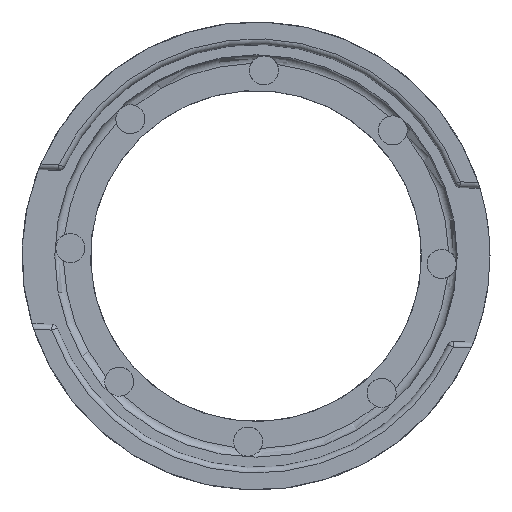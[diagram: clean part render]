
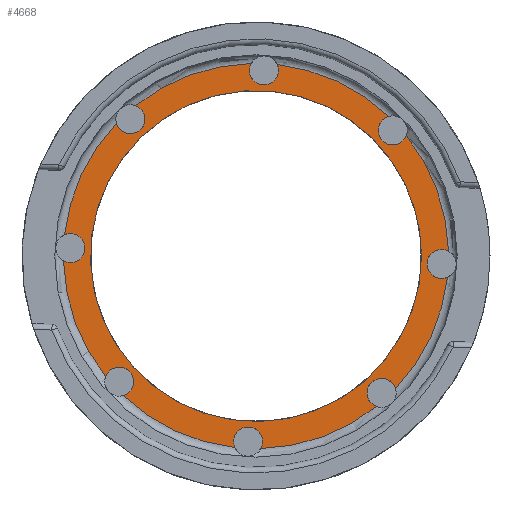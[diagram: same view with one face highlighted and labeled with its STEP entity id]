
A CAD part, top view. The second image highlights one B-rep face of the part: STEP entity #4668.
In plain terms, the highlighted planar face has unit normal (0, 0, 1).
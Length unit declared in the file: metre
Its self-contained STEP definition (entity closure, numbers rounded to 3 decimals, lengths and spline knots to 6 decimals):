
#631=CIRCLE('',#5051,0.03375);
#632=CIRCLE('',#5052,0.00255);
#633=CIRCLE('',#5053,0.03375);
#634=CIRCLE('',#5054,0.00255);
#635=CIRCLE('',#5055,0.03375);
#636=CIRCLE('',#5056,0.00255);
#637=CIRCLE('',#5057,0.03375);
#638=CIRCLE('',#5058,0.00255);
#639=CIRCLE('',#5059,0.03375);
#640=CIRCLE('',#5060,0.00255);
#641=CIRCLE('',#5061,0.03375);
#642=CIRCLE('',#5062,0.00255);
#643=CIRCLE('',#5063,0.03375);
#644=CIRCLE('',#5064,0.00255);
#645=CIRCLE('',#5065,0.03375);
#646=CIRCLE('',#5066,0.00255);
#647=CIRCLE('',#5067,0.029);
#1504=ORIENTED_EDGE('',*,*,#2740,.T.);
#1505=ORIENTED_EDGE('',*,*,#2741,.T.);
#1506=ORIENTED_EDGE('',*,*,#2742,.T.);
#1507=ORIENTED_EDGE('',*,*,#2743,.T.);
#1508=ORIENTED_EDGE('',*,*,#2744,.T.);
#1509=ORIENTED_EDGE('',*,*,#2745,.T.);
#1510=ORIENTED_EDGE('',*,*,#2746,.T.);
#1511=ORIENTED_EDGE('',*,*,#2747,.T.);
#1512=ORIENTED_EDGE('',*,*,#2748,.T.);
#1513=ORIENTED_EDGE('',*,*,#2749,.T.);
#1514=ORIENTED_EDGE('',*,*,#2750,.T.);
#1515=ORIENTED_EDGE('',*,*,#2751,.T.);
#1516=ORIENTED_EDGE('',*,*,#2752,.T.);
#1517=ORIENTED_EDGE('',*,*,#2753,.T.);
#1518=ORIENTED_EDGE('',*,*,#2754,.T.);
#1519=ORIENTED_EDGE('',*,*,#2755,.T.);
#1520=ORIENTED_EDGE('',*,*,#2756,.T.);
#2740=EDGE_CURVE('',#3277,#3278,#631,.F.);
#2741=EDGE_CURVE('',#3278,#3279,#632,.T.);
#2742=EDGE_CURVE('',#3279,#3280,#633,.F.);
#2743=EDGE_CURVE('',#3280,#3281,#634,.T.);
#2744=EDGE_CURVE('',#3281,#3282,#635,.F.);
#2745=EDGE_CURVE('',#3282,#3283,#636,.T.);
#2746=EDGE_CURVE('',#3283,#3284,#637,.F.);
#2747=EDGE_CURVE('',#3284,#3285,#638,.T.);
#2748=EDGE_CURVE('',#3285,#3286,#639,.F.);
#2749=EDGE_CURVE('',#3286,#3287,#640,.T.);
#2750=EDGE_CURVE('',#3287,#3288,#641,.F.);
#2751=EDGE_CURVE('',#3288,#3289,#642,.T.);
#2752=EDGE_CURVE('',#3289,#3290,#643,.F.);
#2753=EDGE_CURVE('',#3290,#3291,#644,.T.);
#2754=EDGE_CURVE('',#3291,#3292,#645,.F.);
#2755=EDGE_CURVE('',#3292,#3277,#646,.T.);
#2756=EDGE_CURVE('',#3293,#3293,#647,.T.);
#3277=VERTEX_POINT('',#11335);
#3278=VERTEX_POINT('',#11336);
#3279=VERTEX_POINT('',#11338);
#3280=VERTEX_POINT('',#11340);
#3281=VERTEX_POINT('',#11342);
#3282=VERTEX_POINT('',#11344);
#3283=VERTEX_POINT('',#11346);
#3284=VERTEX_POINT('',#11348);
#3285=VERTEX_POINT('',#11350);
#3286=VERTEX_POINT('',#11352);
#3287=VERTEX_POINT('',#11354);
#3288=VERTEX_POINT('',#11356);
#3289=VERTEX_POINT('',#11358);
#3290=VERTEX_POINT('',#11360);
#3291=VERTEX_POINT('',#11362);
#3292=VERTEX_POINT('',#11364);
#3293=VERTEX_POINT('',#11367);
#3880=EDGE_LOOP('',(#1504,#1505,#1506,#1507,#1508,#1509,#1510,#1511,#1512,
#1513,#1514,#1515,#1516,#1517,#1518,#1519));
#3881=EDGE_LOOP('',(#1520));
#4207=FACE_BOUND('',#3880,.T.);
#4208=FACE_BOUND('',#3881,.T.);
#4423=PLANE('',#5050);
#4668=ADVANCED_FACE('',(#4207,#4208),#4423,.F.);
#5050=AXIS2_PLACEMENT_3D('',#11333,#5676,#5677);
#5051=AXIS2_PLACEMENT_3D('',#11334,#5678,#5679);
#5052=AXIS2_PLACEMENT_3D('',#11337,#5680,#5681);
#5053=AXIS2_PLACEMENT_3D('',#11339,#5682,#5683);
#5054=AXIS2_PLACEMENT_3D('',#11341,#5684,#5685);
#5055=AXIS2_PLACEMENT_3D('',#11343,#5686,#5687);
#5056=AXIS2_PLACEMENT_3D('',#11345,#5688,#5689);
#5057=AXIS2_PLACEMENT_3D('',#11347,#5690,#5691);
#5058=AXIS2_PLACEMENT_3D('',#11349,#5692,#5693);
#5059=AXIS2_PLACEMENT_3D('',#11351,#5694,#5695);
#5060=AXIS2_PLACEMENT_3D('',#11353,#5696,#5697);
#5061=AXIS2_PLACEMENT_3D('',#11355,#5698,#5699);
#5062=AXIS2_PLACEMENT_3D('',#11357,#5700,#5701);
#5063=AXIS2_PLACEMENT_3D('',#11359,#5702,#5703);
#5064=AXIS2_PLACEMENT_3D('',#11361,#5704,#5705);
#5065=AXIS2_PLACEMENT_3D('',#11363,#5706,#5707);
#5066=AXIS2_PLACEMENT_3D('',#11365,#5708,#5709);
#5067=AXIS2_PLACEMENT_3D('',#11366,#5710,#5711);
#5676=DIRECTION('',(0.,0.,-1.));
#5677=DIRECTION('',(0.819,0.574,0.));
#5678=DIRECTION('',(0.,0.,-1.));
#5679=DIRECTION('',(1.,0.,0.));
#5680=DIRECTION('',(0.,0.,-1.));
#5681=DIRECTION('',(1.,0.,0.));
#5682=DIRECTION('',(0.,0.,-1.));
#5683=DIRECTION('',(1.,0.,0.));
#5684=DIRECTION('',(0.,0.,-1.));
#5685=DIRECTION('',(1.,0.,0.));
#5686=DIRECTION('',(0.,0.,-1.));
#5687=DIRECTION('',(1.,0.,0.));
#5688=DIRECTION('',(0.,0.,-1.));
#5689=DIRECTION('',(1.,0.,0.));
#5690=DIRECTION('',(0.,0.,-1.));
#5691=DIRECTION('',(1.,0.,0.));
#5692=DIRECTION('',(0.,0.,-1.));
#5693=DIRECTION('',(1.,0.,0.));
#5694=DIRECTION('',(0.,0.,-1.));
#5695=DIRECTION('',(1.,0.,0.));
#5696=DIRECTION('',(0.,0.,-1.));
#5697=DIRECTION('',(1.,0.,0.));
#5698=DIRECTION('',(0.,0.,-1.));
#5699=DIRECTION('',(1.,0.,0.));
#5700=DIRECTION('',(0.,0.,-1.));
#5701=DIRECTION('',(1.,0.,0.));
#5702=DIRECTION('',(0.,0.,-1.));
#5703=DIRECTION('',(1.,0.,0.));
#5704=DIRECTION('',(0.,0.,-1.));
#5705=DIRECTION('',(1.,0.,0.));
#5706=DIRECTION('',(0.,0.,-1.));
#5707=DIRECTION('',(1.,0.,0.));
#5708=DIRECTION('',(0.,0.,-1.));
#5709=DIRECTION('',(1.,0.,0.));
#5710=DIRECTION('',(0.,0.,-1.));
#5711=DIRECTION('',(1.,0.,0.));
#11333=CARTESIAN_POINT('',(0.,0.,0.0708));
#11334=CARTESIAN_POINT('',(0.,0.,0.0708));
#11335=CARTESIAN_POINT('',(-0.024459,0.023255,0.0708));
#11336=CARTESIAN_POINT('',(-0.033544,0.003724,0.0708));
#11337=CARTESIAN_POINT('',(-0.03252,0.001388,0.0708));
#11338=CARTESIAN_POINT('',(-0.033739,-0.000851,0.0708));
#11339=CARTESIAN_POINT('',(0.,0.,0.0708));
#11340=CARTESIAN_POINT('',(-0.026352,-0.021086,0.0708));
#11341=CARTESIAN_POINT('',(-0.023977,-0.022014,0.0708));
#11342=CARTESIAN_POINT('',(-0.023255,-0.024459,0.0708));
#11343=CARTESIAN_POINT('',(0.,0.,0.0708));
#11344=CARTESIAN_POINT('',(-0.003724,-0.033544,0.0708));
#11345=CARTESIAN_POINT('',(-0.001388,-0.03252,0.0708));
#11346=CARTESIAN_POINT('',(0.000851,-0.033739,0.0708));
#11347=CARTESIAN_POINT('',(0.,0.,0.0708));
#11348=CARTESIAN_POINT('',(0.021086,-0.026352,0.0708));
#11349=CARTESIAN_POINT('',(0.022014,-0.023977,0.0708));
#11350=CARTESIAN_POINT('',(0.024459,-0.023255,0.0708));
#11351=CARTESIAN_POINT('',(0.,0.,0.0708));
#11352=CARTESIAN_POINT('',(0.033544,-0.003724,0.0708));
#11353=CARTESIAN_POINT('',(0.03252,-0.001388,0.0708));
#11354=CARTESIAN_POINT('',(0.033739,0.000851,0.0708));
#11355=CARTESIAN_POINT('',(0.,0.,0.0708));
#11356=CARTESIAN_POINT('',(0.026352,0.021086,0.0708));
#11357=CARTESIAN_POINT('',(0.023977,0.022014,0.0708));
#11358=CARTESIAN_POINT('',(0.023255,0.024459,0.0708));
#11359=CARTESIAN_POINT('',(0.,0.,0.0708));
#11360=CARTESIAN_POINT('',(0.003724,0.033544,0.0708));
#11361=CARTESIAN_POINT('',(0.001388,0.03252,0.0708));
#11362=CARTESIAN_POINT('',(-0.000851,0.033739,0.0708));
#11363=CARTESIAN_POINT('',(0.,0.,0.0708));
#11364=CARTESIAN_POINT('',(-0.021086,0.026352,0.0708));
#11365=CARTESIAN_POINT('',(-0.022014,0.023977,0.0708));
#11366=CARTESIAN_POINT('',(0.,0.,0.0708));
#11367=CARTESIAN_POINT('',(0.029,0.,0.0708));
